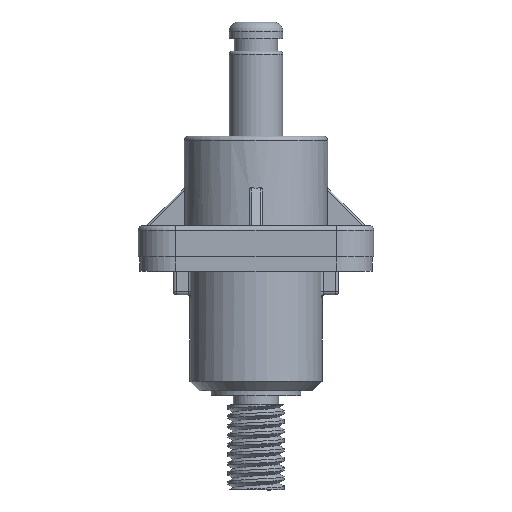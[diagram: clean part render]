
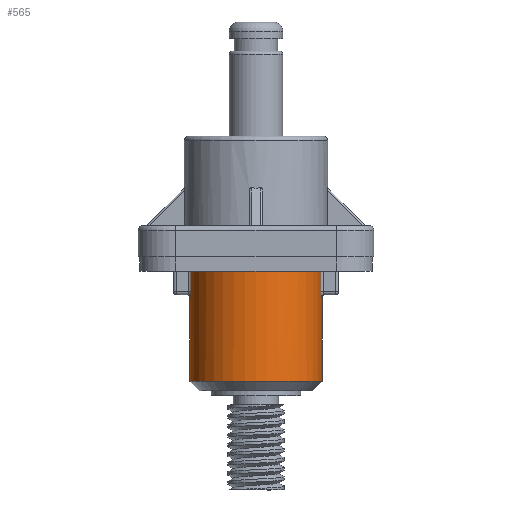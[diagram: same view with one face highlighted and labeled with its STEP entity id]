
A CAD part, front view. The second image highlights one B-rep face of the part: STEP entity #565.
In plain terms, the highlighted cylindrical face has radius 7 mm (diameter 14 mm), a partial arc.
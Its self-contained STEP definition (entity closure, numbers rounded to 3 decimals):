
#86 = EDGE_CURVE ( 'NONE', #7648, #3928, #5301, .T. ) ;
#110 = DIRECTION ( 'NONE',  ( 0., 0., -1. ) ) ;
#170 = FACE_OUTER_BOUND ( 'NONE', #8333, .T. ) ;
#242 = B_SPLINE_CURVE_WITH_KNOTS ( 'NONE', 3,
 ( #6571, #1564, #8008, #3719, #8720, #4441 ),
 .UNSPECIFIED., .F., .F.,
 ( 4, 2, 4 ),
 ( 0., 0., 0.001 ),
 .UNSPECIFIED. ) ;
#523 = CARTESIAN_POINT ( 'NONE',  ( -11.105, -6.671, -12.5 ) ) ;
#565 = ADVANCED_FACE ( 'NONE', ( #170 ), #3757, .T. ) ;
#567 = CARTESIAN_POINT ( 'NONE',  ( -4.105, -6.671, -3.6 ) ) ;
#640 = VERTEX_POINT ( 'NONE', #3911 ) ;
#877 = EDGE_CURVE ( 'NONE', #7395, #5864, #5481, .T. ) ;
#1043 = CARTESIAN_POINT ( 'NONE',  ( -18.062, -7.438, -3.6 ) ) ;
#1137 = ORIENTED_EDGE ( 'NONE', *, *, #7064, .F. ) ;
#1146 = DIRECTION ( 'NONE',  ( 0., 0., 1. ) ) ;
#1232 = AXIS2_PLACEMENT_3D ( 'NONE', #6546, #4409, #7959 ) ;
#1239 = DIRECTION ( 'NONE',  ( -1., 0., 0. ) ) ;
#1280 = EDGE_CURVE ( 'NONE', #7202, #7648, #5696, .T. ) ;
#1387 = ORIENTED_EDGE ( 'NONE', *, *, #5923, .F. ) ;
#1516 = CARTESIAN_POINT ( 'NONE',  ( -4.234, -8.014, -3. ) ) ;
#1564 = CARTESIAN_POINT ( 'NONE',  ( -4.234, -8.014, -3.156 ) ) ;
#1619 = CARTESIAN_POINT ( 'NONE',  ( -18.062, -7.438, -3.6 ) ) ;
#1759 = VECTOR ( 'NONE', #1146, 1000. ) ;
#1814 = DIRECTION ( 'NONE',  ( 0., 0., -1. ) ) ;
#1849 = AXIS2_PLACEMENT_3D ( 'NONE', #7131, #2854, #7846 ) ;
#2333 = ORIENTED_EDGE ( 'NONE', *, *, #6040, .T. ) ;
#2360 = DIRECTION ( 'NONE',  ( 0., 0., 1. ) ) ;
#2363 = CARTESIAN_POINT ( 'NONE',  ( -17.987, -7.954, -3.309 ) ) ;
#2507 = EDGE_CURVE ( 'NONE', #7395, #8850, #7327, .T. ) ;
#2580 = AXIS2_PLACEMENT_3D ( 'NONE', #6107, #1814, #6830 ) ;
#2636 = ORIENTED_EDGE ( 'NONE', *, *, #9114, .T. ) ;
#2677 = ORIENTED_EDGE ( 'NONE', *, *, #6337, .F. ) ;
#2854 = DIRECTION ( 'NONE',  ( 0., 0., -1. ) ) ;
#3075 = CARTESIAN_POINT ( 'NONE',  ( -17.975, -8.014, -3. ) ) ;
#3215 = AXIS2_PLACEMENT_3D ( 'NONE', #523, #5532, #1239 ) ;
#3459 = CARTESIAN_POINT ( 'NONE',  ( -11.105, -6.671, -0.8 ) ) ;
#3719 = CARTESIAN_POINT ( 'NONE',  ( -4.186, -7.744, -3.532 ) ) ;
#3757 = CYLINDRICAL_SURFACE ( 'NONE', #1232, 7. ) ;
#3911 = CARTESIAN_POINT ( 'NONE',  ( -4.234, -8.014, -0.8 ) ) ;
#3928 = VERTEX_POINT ( 'NONE', #8083 ) ;
#3969 = CARTESIAN_POINT ( 'NONE',  ( -18.105, -6.671, -3.6 ) ) ;
#4063 = CARTESIAN_POINT ( 'NONE',  ( -4.105, -6.671, -13.5 ) ) ;
#4163 = DIRECTION ( 'NONE',  ( 1., 0., 0. ) ) ;
#4409 = DIRECTION ( 'NONE',  ( 0., 0., 1. ) ) ;
#4441 = CARTESIAN_POINT ( 'NONE',  ( -4.147, -7.438, -3.6 ) ) ;
#4568 = VERTEX_POINT ( 'NONE', #7746 ) ;
#4711 = LINE ( 'NONE', #5176, #6393 ) ;
#4857 = CARTESIAN_POINT ( 'NONE',  ( -17.975, -8.014, -3. ) ) ;
#4861 = CIRCLE ( 'NONE', #3215, 7. ) ;
#4896 = ORIENTED_EDGE ( 'NONE', *, *, #2507, .F. ) ;
#5012 = CARTESIAN_POINT ( 'NONE',  ( -4.105, -6.671, -12.5 ) ) ;
#5111 = CARTESIAN_POINT ( 'NONE',  ( -17.975, -8.014, -13.5 ) ) ;
#5176 = CARTESIAN_POINT ( 'NONE',  ( -4.234, -8.014, -13.5 ) ) ;
#5301 = CIRCLE ( 'NONE', #2580, 7. ) ;
#5468 = VERTEX_POINT ( 'NONE', #8933 ) ;
#5481 = CIRCLE ( 'NONE', #1849, 7. ) ;
#5532 = DIRECTION ( 'NONE',  ( 0., 0., 1. ) ) ;
#5568 = ORIENTED_EDGE ( 'NONE', *, *, #9063, .T. ) ;
#5696 = LINE ( 'NONE', #4063, #9258 ) ;
#5806 = ORIENTED_EDGE ( 'NONE', *, *, #86, .T. ) ;
#5864 = VERTEX_POINT ( 'NONE', #3969 ) ;
#5921 = CARTESIAN_POINT ( 'NONE',  ( -18.045, -7.594, -3.6 ) ) ;
#5923 = EDGE_CURVE ( 'NONE', #5468, #5864, #7241, .T. ) ;
#6040 = EDGE_CURVE ( 'NONE', #5468, #7202, #4861, .T. ) ;
#6107 = CARTESIAN_POINT ( 'NONE',  ( -11.105, -6.671, -3.6 ) ) ;
#6337 = EDGE_CURVE ( 'NONE', #7265, #3928, #242, .T. ) ;
#6393 = VECTOR ( 'NONE', #2360, 1000. ) ;
#6546 = CARTESIAN_POINT ( 'NONE',  ( -11.105, -6.671, -13.5 ) ) ;
#6571 = CARTESIAN_POINT ( 'NONE',  ( -4.234, -8.014, -3. ) ) ;
#6638 = CARTESIAN_POINT ( 'NONE',  ( -18.023, -7.744, -3.532 ) ) ;
#6691 = AXIS2_PLACEMENT_3D ( 'NONE', #3459, #8441, #4163 ) ;
#6830 = DIRECTION ( 'NONE',  ( -1., 0., 0. ) ) ;
#7064 = EDGE_CURVE ( 'NONE', #4568, #640, #7674, .T. ) ;
#7131 = CARTESIAN_POINT ( 'NONE',  ( -11.105, -6.671, -3.6 ) ) ;
#7202 = VERTEX_POINT ( 'NONE', #5012 ) ;
#7241 = LINE ( 'NONE', #9015, #1759 ) ;
#7265 = VERTEX_POINT ( 'NONE', #1516 ) ;
#7327 = B_SPLINE_CURVE_WITH_KNOTS ( 'NONE', 3,
 ( #1619, #5921, #6638, #2363, #7361, #3075 ),
 .UNSPECIFIED., .F., .F.,
 ( 4, 2, 4 ),
 ( 0., 0., 0.001 ),
 .UNSPECIFIED. ) ;
#7361 = CARTESIAN_POINT ( 'NONE',  ( -17.975, -8.014, -3.156 ) ) ;
#7395 = VERTEX_POINT ( 'NONE', #1043 ) ;
#7648 = VERTEX_POINT ( 'NONE', #567 ) ;
#7674 = CIRCLE ( 'NONE', #6691, 7. ) ;
#7746 = CARTESIAN_POINT ( 'NONE',  ( -17.975, -8.014, -0.8 ) ) ;
#7806 = ORIENTED_EDGE ( 'NONE', *, *, #877, .T. ) ;
#7846 = DIRECTION ( 'NONE',  ( -1., 0., 0. ) ) ;
#7959 = DIRECTION ( 'NONE',  ( 1., 0., 0. ) ) ;
#8008 = CARTESIAN_POINT ( 'NONE',  ( -4.222, -7.954, -3.31 ) ) ;
#8083 = CARTESIAN_POINT ( 'NONE',  ( -4.147, -7.438, -3.6 ) ) ;
#8333 = EDGE_LOOP ( 'NONE', ( #1387, #2333, #8908, #5806, #2677, #2636, #1137, #5568, #4896, #7806 ) ) ;
#8350 = DIRECTION ( 'NONE',  ( 0., 0., 1. ) ) ;
#8441 = DIRECTION ( 'NONE',  ( 0., 0., 1. ) ) ;
#8497 = VECTOR ( 'NONE', #110, 1000. ) ;
#8720 = CARTESIAN_POINT ( 'NONE',  ( -4.164, -7.594, -3.6 ) ) ;
#8741 = LINE ( 'NONE', #5111, #8497 ) ;
#8850 = VERTEX_POINT ( 'NONE', #4857 ) ;
#8908 = ORIENTED_EDGE ( 'NONE', *, *, #1280, .T. ) ;
#8933 = CARTESIAN_POINT ( 'NONE',  ( -18.105, -6.671, -12.5 ) ) ;
#9015 = CARTESIAN_POINT ( 'NONE',  ( -18.105, -6.671, -13.5 ) ) ;
#9063 = EDGE_CURVE ( 'NONE', #4568, #8850, #8741, .T. ) ;
#9114 = EDGE_CURVE ( 'NONE', #7265, #640, #4711, .T. ) ;
#9258 = VECTOR ( 'NONE', #8350, 1000. ) ;
